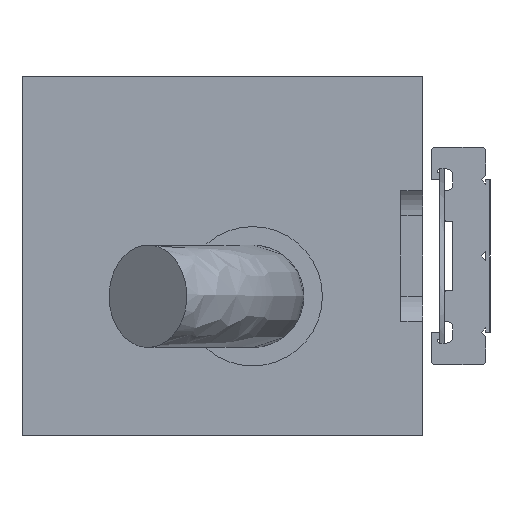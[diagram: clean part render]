
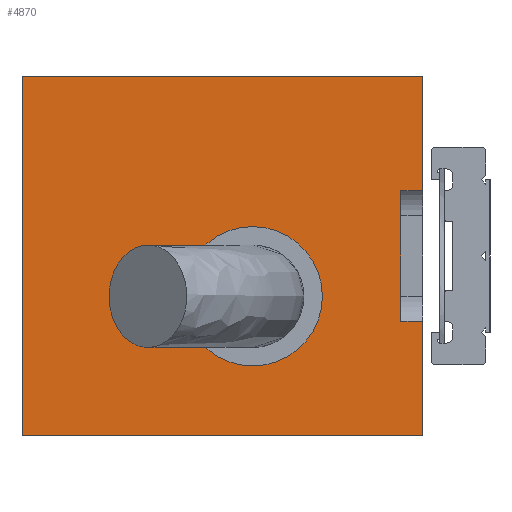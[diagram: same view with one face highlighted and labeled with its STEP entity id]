
A CAD part, left-side view. The second image highlights one B-rep face of the part: STEP entity #4870.
In plain terms, the highlighted planar face has unit normal (-1, 0, 0).
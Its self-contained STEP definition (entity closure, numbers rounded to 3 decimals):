
#24 = CIRCLE ( 'NONE', #401, 3.2 ) ;
#67 = CARTESIAN_POINT ( 'NONE',  ( -18., 7.8, -1.85 ) ) ;
#68 = LINE ( 'NONE', #1877, #5382 ) ;
#99 = DIRECTION ( 'NONE',  ( 0., -1., 0. ) ) ;
#103 = DIRECTION ( 'NONE',  ( 0., 1., 0. ) ) ;
#122 = CARTESIAN_POINT ( 'NONE',  ( -18., 0., 8.25 ) ) ;
#232 = EDGE_CURVE ( 'NONE', #1749, #2980, #2673, .T. ) ;
#298 = ORIENTED_EDGE ( 'NONE', *, *, #5328, .F. ) ;
#401 = AXIS2_PLACEMENT_3D ( 'NONE', #5228, #1223, #2590 ) ;
#588 = VERTEX_POINT ( 'NONE', #5791 ) ;
#699 = ORIENTED_EDGE ( 'NONE', *, *, #2459, .T. ) ;
#767 = CIRCLE ( 'NONE', #3943, 3.2 ) ;
#779 = VECTOR ( 'NONE', #103, 1000. ) ;
#808 = EDGE_CURVE ( 'NONE', #588, #2387, #2897, .T. ) ;
#827 = EDGE_CURVE ( 'NONE', #4382, #2387, #1987, .T. ) ;
#945 = DIRECTION ( 'NONE',  ( -1., 0., 0. ) ) ;
#999 = ORIENTED_EDGE ( 'NONE', *, *, #2687, .F. ) ;
#1124 = ORIENTED_EDGE ( 'NONE', *, *, #232, .F. ) ;
#1223 = DIRECTION ( 'NONE',  ( -1., 0., 0. ) ) ;
#1405 = CARTESIAN_POINT ( 'NONE',  ( -18., 7.8, -5.05 ) ) ;
#1427 = CARTESIAN_POINT ( 'NONE',  ( -18., 7.8, 1.35 ) ) ;
#1551 = ORIENTED_EDGE ( 'NONE', *, *, #5032, .F. ) ;
#1556 = VERTEX_POINT ( 'NONE', #1572 ) ;
#1572 = CARTESIAN_POINT ( 'NONE',  ( -18., 1., -3. ) ) ;
#1605 = ORIENTED_EDGE ( 'NONE', *, *, #827, .F. ) ;
#1680 = FACE_OUTER_BOUND ( 'NONE', #4756, .T. ) ;
#1729 = VECTOR ( 'NONE', #3968, 1000. ) ;
#1749 = VERTEX_POINT ( 'NONE', #2971 ) ;
#1877 = CARTESIAN_POINT ( 'NONE',  ( -18., 0., 8.25 ) ) ;
#1929 = DIRECTION ( 'NONE',  ( 0., 0., -1. ) ) ;
#1936 = EDGE_CURVE ( 'NONE', #2008, #4715, #767, .T. ) ;
#1938 = VECTOR ( 'NONE', #99, 1000. ) ;
#1967 = LINE ( 'NONE', #5523, #779 ) ;
#1987 = LINE ( 'NONE', #122, #2352 ) ;
#2008 = VERTEX_POINT ( 'NONE', #1427 ) ;
#2031 = PLANE ( 'NONE',  #3206 ) ;
#2069 = ORIENTED_EDGE ( 'NONE', *, *, #808, .T. ) ;
#2142 = VERTEX_POINT ( 'NONE', #2784 ) ;
#2249 = DIRECTION ( 'NONE',  ( 0., -1., 0. ) ) ;
#2342 = CARTESIAN_POINT ( 'NONE',  ( -18., 18.4, -3. ) ) ;
#2352 = VECTOR ( 'NONE', #1929, 1000. ) ;
#2387 = VERTEX_POINT ( 'NONE', #5672 ) ;
#2415 = DIRECTION ( 'NONE',  ( 0., -1., 0. ) ) ;
#2459 = EDGE_CURVE ( 'NONE', #1749, #588, #4408, .T. ) ;
#2590 = DIRECTION ( 'NONE',  ( 0., 0., 1. ) ) ;
#2673 = LINE ( 'NONE', #4456, #4206 ) ;
#2680 = CARTESIAN_POINT ( 'NONE',  ( -18., 18.4, 0. ) ) ;
#2687 = EDGE_CURVE ( 'NONE', #2980, #2142, #68, .T. ) ;
#2696 = ORIENTED_EDGE ( 'NONE', *, *, #1936, .F. ) ;
#2706 = LINE ( 'NONE', #2342, #1938 ) ;
#2763 = DIRECTION ( 'NONE',  ( 0., 0., -1. ) ) ;
#2784 = CARTESIAN_POINT ( 'NONE',  ( -18., 0., 3. ) ) ;
#2811 = VERTEX_POINT ( 'NONE', #3452 ) ;
#2874 = CARTESIAN_POINT ( 'NONE',  ( -18., 18.4, -8.25 ) ) ;
#2897 = LINE ( 'NONE', #2874, #3744 ) ;
#2971 = CARTESIAN_POINT ( 'NONE',  ( -18., 18.4, 8.25 ) ) ;
#2980 = VERTEX_POINT ( 'NONE', #3157 ) ;
#3004 = CARTESIAN_POINT ( 'NONE',  ( -18., 1., 8.25 ) ) ;
#3034 = DIRECTION ( 'NONE',  ( 0., 0., -1. ) ) ;
#3143 = DIRECTION ( 'NONE',  ( 0., 0., 1. ) ) ;
#3157 = CARTESIAN_POINT ( 'NONE',  ( -18., 0., 8.25 ) ) ;
#3206 = AXIS2_PLACEMENT_3D ( 'NONE', #5610, #3373, #3796 ) ;
#3215 = CARTESIAN_POINT ( 'NONE',  ( -18., 0., -3. ) ) ;
#3368 = EDGE_CURVE ( 'NONE', #1556, #4382, #2706, .T. ) ;
#3373 = DIRECTION ( 'NONE',  ( 1., 0., 0. ) ) ;
#3432 = LINE ( 'NONE', #3004, #4610 ) ;
#3452 = CARTESIAN_POINT ( 'NONE',  ( -18., 1., 3. ) ) ;
#3517 = ORIENTED_EDGE ( 'NONE', *, *, #3368, .F. ) ;
#3744 = VECTOR ( 'NONE', #2415, 1000. ) ;
#3796 = DIRECTION ( 'NONE',  ( 0., 0., -1. ) ) ;
#3943 = AXIS2_PLACEMENT_3D ( 'NONE', #67, #945, #3143 ) ;
#3968 = DIRECTION ( 'NONE',  ( 0., 0., -1. ) ) ;
#4206 = VECTOR ( 'NONE', #2249, 1000. ) ;
#4243 = FACE_BOUND ( 'NONE', #5206, .T. ) ;
#4382 = VERTEX_POINT ( 'NONE', #3215 ) ;
#4408 = LINE ( 'NONE', #2680, #1729 ) ;
#4456 = CARTESIAN_POINT ( 'NONE',  ( -18., 18.4, 8.25 ) ) ;
#4610 = VECTOR ( 'NONE', #3034, 1000. ) ;
#4715 = VERTEX_POINT ( 'NONE', #1405 ) ;
#4756 = EDGE_LOOP ( 'NONE', ( #5108, #999, #1124, #699, #2069, #1605, #3517, #298 ) ) ;
#4870 = ADVANCED_FACE ( 'NONE', ( #1680, #4243 ), #2031, .F. ) ;
#5032 = EDGE_CURVE ( 'NONE', #4715, #2008, #24, .T. ) ;
#5108 = ORIENTED_EDGE ( 'NONE', *, *, #5216, .F. ) ;
#5206 = EDGE_LOOP ( 'NONE', ( #2696, #1551 ) ) ;
#5216 = EDGE_CURVE ( 'NONE', #2142, #2811, #1967, .T. ) ;
#5228 = CARTESIAN_POINT ( 'NONE',  ( -18., 7.8, -1.85 ) ) ;
#5328 = EDGE_CURVE ( 'NONE', #2811, #1556, #3432, .T. ) ;
#5382 = VECTOR ( 'NONE', #2763, 1000. ) ;
#5523 = CARTESIAN_POINT ( 'NONE',  ( -18., 18.4, 3. ) ) ;
#5610 = CARTESIAN_POINT ( 'NONE',  ( -18., 18.4, 8.25 ) ) ;
#5672 = CARTESIAN_POINT ( 'NONE',  ( -18., 0., -8.25 ) ) ;
#5791 = CARTESIAN_POINT ( 'NONE',  ( -18., 18.4, -8.25 ) ) ;
